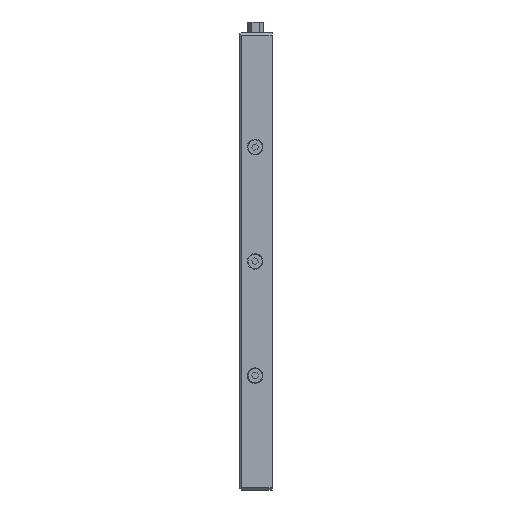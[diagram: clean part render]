
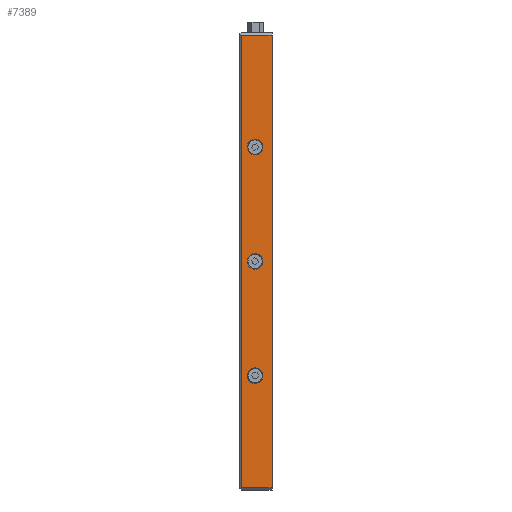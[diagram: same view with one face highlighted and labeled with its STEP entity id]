
A CAD part, left-side view. The second image highlights one B-rep face of the part: STEP entity #7389.
In plain terms, the highlighted planar face has unit normal (-1, 0, 0).
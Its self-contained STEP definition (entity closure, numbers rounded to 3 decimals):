
#138 = LINE ( 'NONE', #745, #17185 ) ;
#403 = LINE ( 'NONE', #404, #17023 ) ;
#404 = CARTESIAN_POINT ( 'NONE',  ( -192., 27., 190. ) ) ;
#405 = DIRECTION ( 'NONE',  ( 0., 1., 0. ) ) ;
#470 = CARTESIAN_POINT ( 'NONE',  ( -192., 14.3, -96. ) ) ;
#471 = DIRECTION ( 'NONE',  ( 1., 0., 0. ) ) ;
#472 = DIRECTION ( 'NONE',  ( 0., 0., -1. ) ) ;
#745 = CARTESIAN_POINT ( 'NONE',  ( -192., 26., 192. ) ) ;
#746 = DIRECTION ( 'NONE',  ( 0., 0., -1. ) ) ;
#857 = CARTESIAN_POINT ( 'NONE',  ( -192., 14.3, 96. ) ) ;
#858 = DIRECTION ( 'NONE',  ( -1., 0., 0. ) ) ;
#859 = DIRECTION ( 'NONE',  ( 0., 0., 1. ) ) ;
#1062 = CARTESIAN_POINT ( 'NONE',  ( -192., 14.3, 96. ) ) ;
#1063 = DIRECTION ( 'NONE',  ( -1., 0., 0. ) ) ;
#1064 = DIRECTION ( 'NONE',  ( 0., 0., 1. ) ) ;
#1750 = EDGE_CURVE ( 'NONE', #11339, #6818, #13132, .T. ) ;
#1898 = EDGE_CURVE ( 'NONE', #11224, #6591, #5994, .T. ) ;
#1903 = EDGE_CURVE ( 'NONE', #6814, #11058, #12589, .T. ) ;
#1958 = EDGE_CURVE ( 'NONE', #6591, #11178, #6419, .T. ) ;
#1993 = EDGE_CURVE ( 'NONE', #11178, #6639, #403, .T. ) ;
#2002 = EDGE_CURVE ( 'NONE', #6818, #11339, #17008, .T. ) ;
#2147 = EDGE_CURVE ( 'NONE', #6639, #11224, #138, .T. ) ;
#2170 = EDGE_CURVE ( 'NONE', #6803, #11053, #17214, .T. ) ;
#2230 = EDGE_CURVE ( 'NONE', #11053, #6803, #13571, .T. ) ;
#2277 = EDGE_CURVE ( 'NONE', #11058, #6814, #13642, .T. ) ;
#2852 = ORIENTED_EDGE ( 'NONE', *, *, #2002, .T. ) ;
#2853 = ORIENTED_EDGE ( 'NONE', *, *, #1750, .T. ) ;
#2854 = ORIENTED_EDGE ( 'NONE', *, *, #2277, .T. ) ;
#2855 = ORIENTED_EDGE ( 'NONE', *, *, #1903, .T. ) ;
#2856 = ORIENTED_EDGE ( 'NONE', *, *, #2230, .F. ) ;
#2857 = ORIENTED_EDGE ( 'NONE', *, *, #2170, .F. ) ;
#2858 = ORIENTED_EDGE ( 'NONE', *, *, #1993, .T. ) ;
#2859 = ORIENTED_EDGE ( 'NONE', *, *, #1958, .T. ) ;
#2860 = ORIENTED_EDGE ( 'NONE', *, *, #1898, .T. ) ;
#2861 = ORIENTED_EDGE ( 'NONE', *, *, #2147, .T. ) ;
#3267 = CARTESIAN_POINT ( 'NONE',  ( -192., 14.3, 0. ) ) ;
#3268 = DIRECTION ( 'NONE',  ( 1., 0., 0. ) ) ;
#3269 = DIRECTION ( 'NONE',  ( 0., 0., -1. ) ) ;
#4698 = DIRECTION ( 'NONE',  ( 1., 0., 0. ) ) ;
#4699 = FACE_BOUND ( 'NONE', #9139, .T. ) ;
#4710 = FACE_OUTER_BOUND ( 'NONE', #9129, .T. ) ;
#4711 = CARTESIAN_POINT ( 'NONE',  ( -192., 27., 192. ) ) ;
#4715 = FACE_BOUND ( 'NONE', #9154, .T. ) ;
#4717 = FACE_BOUND ( 'NONE', #9069, .T. ) ;
#4719 = PLANE ( 'NONE',  #9399 ) ;
#4721 = DIRECTION ( 'NONE',  ( 0., 0., -1. ) ) ;
#5994 = LINE ( 'NONE', #6019, #12720 ) ;
#6019 = CARTESIAN_POINT ( 'NONE',  ( -192., 27., -190. ) ) ;
#6020 = DIRECTION ( 'NONE',  ( 0., -1., 0. ) ) ;
#6059 = CARTESIAN_POINT ( 'NONE',  ( -192., 14.3, 0. ) ) ;
#6060 = DIRECTION ( 'NONE',  ( 1., 0., 0. ) ) ;
#6061 = DIRECTION ( 'NONE',  ( 0., 0., -1. ) ) ;
#6368 = CARTESIAN_POINT ( 'NONE',  ( -192., 0., 192. ) ) ;
#6419 = LINE ( 'NONE', #6368, #13219 ) ;
#6423 = DIRECTION ( 'NONE',  ( 0., 0., 1. ) ) ;
#6591 = VERTEX_POINT ( 'NONE', #13995 ) ;
#6639 = VERTEX_POINT ( 'NONE', #14015 ) ;
#6803 = VERTEX_POINT ( 'NONE', #14072 ) ;
#6814 = VERTEX_POINT ( 'NONE', #14082 ) ;
#6818 = VERTEX_POINT ( 'NONE', #14084 ) ;
#7389 = ADVANCED_FACE ( 'NONE', ( #4710, #4699, #4715, #4717 ), #4719, .F. ) ;
#8328 = CARTESIAN_POINT ( 'NONE',  ( -192., 14.3, 90. ) ) ;
#8335 = CARTESIAN_POINT ( 'NONE',  ( -192., 14.3, 6. ) ) ;
#8430 = CARTESIAN_POINT ( 'NONE',  ( -192., 0., 190. ) ) ;
#8483 = CARTESIAN_POINT ( 'NONE',  ( -192., 26., -190. ) ) ;
#8616 = CARTESIAN_POINT ( 'NONE',  ( -192., 14.3, -90. ) ) ;
#9069 = EDGE_LOOP ( 'NONE', ( #2853, #2852 ) ) ;
#9129 = EDGE_LOOP ( 'NONE', ( #2861, #2860, #2859, #2858 ) ) ;
#9139 = EDGE_LOOP ( 'NONE', ( #2857, #2856 ) ) ;
#9154 = EDGE_LOOP ( 'NONE', ( #2855, #2854 ) ) ;
#9399 = AXIS2_PLACEMENT_3D ( 'NONE', #4711, #4698, #4721 ) ;
#9484 = CARTESIAN_POINT ( 'NONE',  ( -192., 14.3, -96. ) ) ;
#9485 = DIRECTION ( 'NONE',  ( 1., 0., 0. ) ) ;
#9486 = DIRECTION ( 'NONE',  ( 0., 0., -1. ) ) ;
#11053 = VERTEX_POINT ( 'NONE', #8328 ) ;
#11058 = VERTEX_POINT ( 'NONE', #8335 ) ;
#11178 = VERTEX_POINT ( 'NONE', #8430 ) ;
#11224 = VERTEX_POINT ( 'NONE', #8483 ) ;
#11339 = VERTEX_POINT ( 'NONE', #8616 ) ;
#12589 = CIRCLE ( 'NONE', #12591, 6. ) ;
#12591 = AXIS2_PLACEMENT_3D ( 'NONE', #6059, #6060, #6061 ) ;
#12720 = VECTOR ( 'NONE', #6020, 1000. ) ;
#13132 = CIRCLE ( 'NONE', #13139, 6. ) ;
#13139 = AXIS2_PLACEMENT_3D ( 'NONE', #9484, #9485, #9486 ) ;
#13219 = VECTOR ( 'NONE', #6423, 1000. ) ;
#13571 = CIRCLE ( 'NONE', #13573, 6. ) ;
#13573 = AXIS2_PLACEMENT_3D ( 'NONE', #1062, #1063, #1064 ) ;
#13642 = CIRCLE ( 'NONE', #13644, 6. ) ;
#13644 = AXIS2_PLACEMENT_3D ( 'NONE', #3267, #3268, #3269 ) ;
#13995 = CARTESIAN_POINT ( 'NONE',  ( -192., 0., -190. ) ) ;
#14015 = CARTESIAN_POINT ( 'NONE',  ( -192., 26., 190. ) ) ;
#14072 = CARTESIAN_POINT ( 'NONE',  ( -192., 14.3, 102. ) ) ;
#14082 = CARTESIAN_POINT ( 'NONE',  ( -192., 14.3, -6. ) ) ;
#14084 = CARTESIAN_POINT ( 'NONE',  ( -192., 14.3, -102. ) ) ;
#17008 = CIRCLE ( 'NONE', #17012, 6. ) ;
#17012 = AXIS2_PLACEMENT_3D ( 'NONE', #470, #471, #472 ) ;
#17023 = VECTOR ( 'NONE', #405, 1000. ) ;
#17185 = VECTOR ( 'NONE', #746, 1000. ) ;
#17214 = CIRCLE ( 'NONE', #17217, 6. ) ;
#17217 = AXIS2_PLACEMENT_3D ( 'NONE', #857, #858, #859 ) ;
